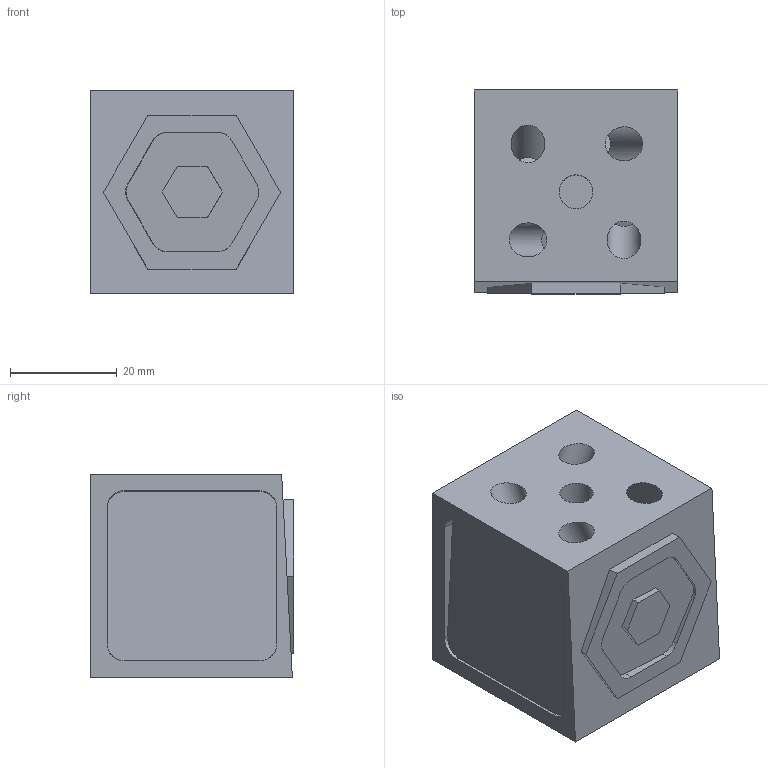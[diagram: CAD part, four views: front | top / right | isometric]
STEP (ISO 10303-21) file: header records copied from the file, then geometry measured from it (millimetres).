
FILE_DESCRIPTION((''),'2;1');
FILE_NAME('G:\advanced cnc class\Mastercam solids\STEP files\Week 2 final solid.stp','2024-02-05T10:45:54',(''),(''),'STEP Write','Mastercam 2021 ... CNC Software, Inc.','');
FILE_SCHEMA(('AUTOMOTIVE_DESIGN'));
Length unit declared in the file: inch
Products named in the file (1): None
Bounding box: 38.1 x 38.1 x 38.1 mm (x, y, z)
Volume: 49509.5 mm3; surface area: 10502.7 mm2
Topology: 1 solids, 1 shells, 86 faces, 428 edges, 560 vertices
Faces by surface type: plane 58, cylinder 28
Full cylindrical faces by diameter (mm): 6.35 x5
Entity records: 4156 total; most frequent: CARTESIAN_POINT 1071, DIRECTION 577, ORIENTED_EDGE 428, VECTOR 317, LINE 317, STYLED_ITEM 293, EDGE_CURVE 214, TRIMMED_CURVE 159
